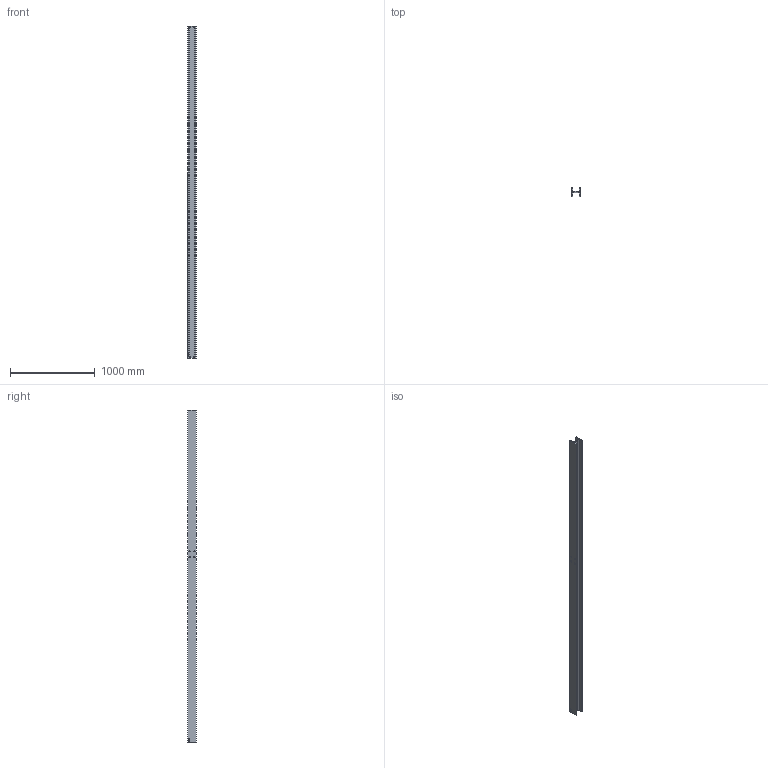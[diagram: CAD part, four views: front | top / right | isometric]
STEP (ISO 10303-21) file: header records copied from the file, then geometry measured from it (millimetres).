
FILE_DESCRIPTION (( 'STEP AP214' ), '1' );
FILE_NAME ('CCJ029-REP.023 - POTEAU TYPE 4.STEP', '2025-02-13T08:47:11', ( '' ), ( '' ), 'SwSTEP 2.0', 'SolidWorks 2021', '' );
FILE_SCHEMA (( 'AUTOMOTIVE_DESIGN' ));
Length unit declared in the file: millimetre
Products named in the file (1): CCJ029-REP.023 - POTEAU TYPE 4
Bounding box: 100 x 100 x 3910 mm (x, y, z)
Volume: 10169639.7 mm3; surface area: 2224088.2 mm2
Topology: 1 solids, 1 shells, 76 faces, 210 edges, 140 vertices
Faces by surface type: bspline 29, plane 27, cylinder 20
Entity records: 4250 total; most frequent: CARTESIAN_POINT 2400, ORIENTED_EDGE 420, DIRECTION 288, EDGE_CURVE 210, VERTEX_POINT 140, VECTOR 112, LINE 112, EDGE_LOOP 96
